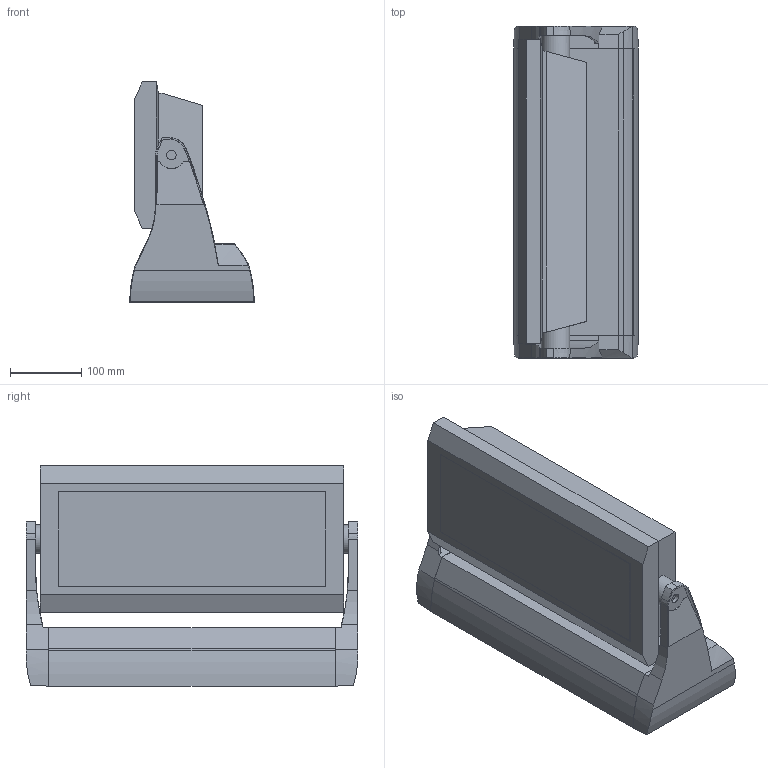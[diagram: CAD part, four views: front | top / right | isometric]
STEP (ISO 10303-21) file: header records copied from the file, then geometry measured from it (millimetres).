
FILE_DESCRIPTION(/* description */ ('Unknown'),/* implementation_level */ '2;1');
FILE_NAME(/* name */ '3D_Divine 160',/* time_stamp */ '2018-06-22T14:50:47+02:00',/* author */ ('Unknown'),/* organization */ ('Unknown'),/* preprocessor_version */ 'ST-DEVELOPER v16.7',/* originating_system */ 'DEX',/* authorisation */ $);
FILE_SCHEMA (('AUTOMOTIVE_DESIGN {1 0 10303 214 3 1 1}'));
Length unit declared in the file: millimetre
Products named in the file (5): 3D_Divine 160 RGBW ; Divine Housing pro SAT; Skøíò zdroje pro SAT; Boènice pravá pro SAT; Boènice levá pro SAT
Assembly tree (4 placements, depth 2):
  3D_Divine 160 RGBW 
    Divine Housing pro SAT
    Skøíò zdroje pro SAT
    Boènice pravá pro SAT
    Boènice levá pro SAT
Bounding box: 175.35 x 467.2 x 310 mm (x, y, z)
Volume: 12953950.7 mm3; surface area: 612982.7 mm2
Topology: 4 solids, 4 shells, 147 faces, 375 edges, 237 vertices
Faces by surface type: plane 65, cone 33, bspline 26, cylinder 18, torus 3, sphere 2
Full cylindrical faces by diameter (mm): 13.4 x1, 40 x2
Entity records: 5431 total; most frequent: CARTESIAN_POINT 2045, ORIENTED_EDGE 730, DIRECTION 601, EDGE_CURVE 365, VERTEX_POINT 233, AXIS2_PLACEMENT_3D 220, LINE 161, VECTOR 161
